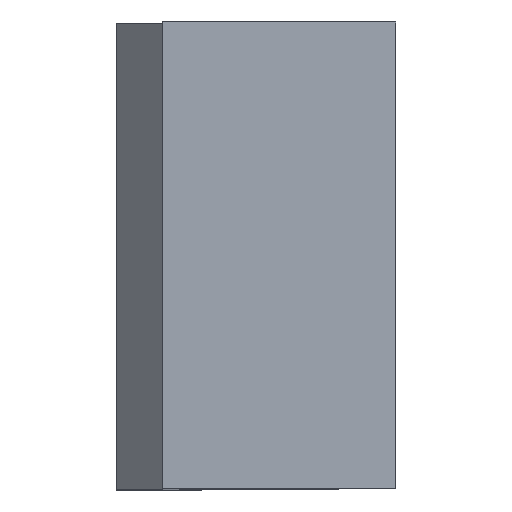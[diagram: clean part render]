
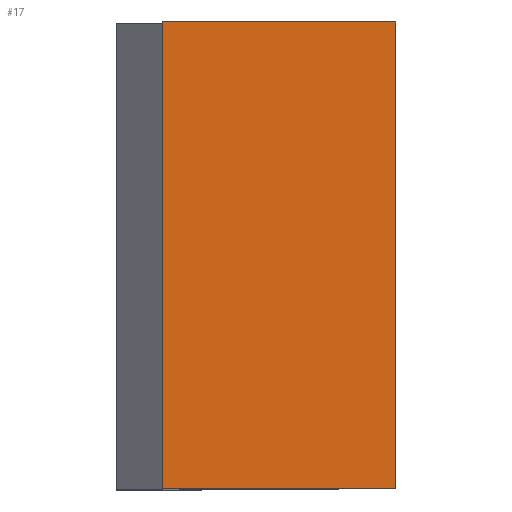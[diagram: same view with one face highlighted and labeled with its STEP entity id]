
A CAD part, top view. The second image highlights one B-rep face of the part: STEP entity #17.
In plain terms, the highlighted planar face has unit normal (0, 0, 1).
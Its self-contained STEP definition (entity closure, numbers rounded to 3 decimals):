
#17 = ADVANCED_FACE('',(#18),#32,.F.);
#18 = FACE_BOUND('',#19,.F.);
#19 = EDGE_LOOP('',(#20,#55,#83,#111));
#20 = ORIENTED_EDGE('',*,*,#21,.T.);
#21 = EDGE_CURVE('',#22,#24,#26,.T.);
#22 = VERTEX_POINT('',#23);
#23 = CARTESIAN_POINT('',(-3.,-30.,-58.));
#24 = VERTEX_POINT('',#25);
#25 = CARTESIAN_POINT('',(-3.,30.,-58.));
#26 = SURFACE_CURVE('',#27,(#31,#43),.PCURVE_S1.);
#27 = LINE('',#28,#29);
#28 = CARTESIAN_POINT('',(-3.,-30.,-58.));
#29 = VECTOR('',#30,1.);
#30 = DIRECTION('',(-0.,1.,-0.));
#31 = PCURVE('',#32,#37);
#32 = PLANE('',#33);
#33 = AXIS2_PLACEMENT_3D('',#34,#35,#36);
#34 = CARTESIAN_POINT('',(-3.,-30.,-58.));
#35 = DIRECTION('',(0.,0.,-1.));
#36 = DIRECTION('',(1.,0.,0.));
#37 = DEFINITIONAL_REPRESENTATION('',(#38),#42);
#38 = LINE('',#39,#40);
#39 = CARTESIAN_POINT('',(0.,0.));
#40 = VECTOR('',#41,1.);
#41 = DIRECTION('',(0.,-1.));
#42 = ( GEOMETRIC_REPRESENTATION_CONTEXT(2) 
PARAMETRIC_REPRESENTATION_CONTEXT() REPRESENTATION_CONTEXT('2D SPACE',''
  ) );
#43 = PCURVE('',#44,#49);
#44 = PLANE('',#45);
#45 = AXIS2_PLACEMENT_3D('',#46,#47,#48);
#46 = CARTESIAN_POINT('',(-3.,-30.,-146.5));
#47 = DIRECTION('',(1.,0.,-0.));
#48 = DIRECTION('',(0.,0.,1.));
#49 = DEFINITIONAL_REPRESENTATION('',(#50),#54);
#50 = LINE('',#51,#52);
#51 = CARTESIAN_POINT('',(88.5,0.));
#52 = VECTOR('',#53,1.);
#53 = DIRECTION('',(0.,-1.));
#54 = ( GEOMETRIC_REPRESENTATION_CONTEXT(2) 
PARAMETRIC_REPRESENTATION_CONTEXT() REPRESENTATION_CONTEXT('2D SPACE',''
  ) );
#55 = ORIENTED_EDGE('',*,*,#56,.F.);
#56 = EDGE_CURVE('',#57,#24,#59,.T.);
#57 = VERTEX_POINT('',#58);
#58 = CARTESIAN_POINT('',(27.,30.,-58.));
#59 = SURFACE_CURVE('',#60,(#64,#71),.PCURVE_S1.);
#60 = LINE('',#61,#62);
#61 = CARTESIAN_POINT('',(27.,30.,-58.));
#62 = VECTOR('',#63,1.);
#63 = DIRECTION('',(-1.,0.,0.));
#64 = PCURVE('',#32,#65);
#65 = DEFINITIONAL_REPRESENTATION('',(#66),#70);
#66 = LINE('',#67,#68);
#67 = CARTESIAN_POINT('',(30.,-60.));
#68 = VECTOR('',#69,1.);
#69 = DIRECTION('',(-1.,0.));
#70 = ( GEOMETRIC_REPRESENTATION_CONTEXT(2) 
PARAMETRIC_REPRESENTATION_CONTEXT() REPRESENTATION_CONTEXT('2D SPACE',''
  ) );
#71 = PCURVE('',#72,#77);
#72 = PLANE('',#73);
#73 = AXIS2_PLACEMENT_3D('',#74,#75,#76);
#74 = CARTESIAN_POINT('',(-1.9,30.,-102.25));
#75 = DIRECTION('',(0.,1.,0.));
#76 = DIRECTION('',(0.,-0.,1.));
#77 = DEFINITIONAL_REPRESENTATION('',(#78),#82);
#78 = LINE('',#79,#80);
#79 = CARTESIAN_POINT('',(44.25,28.9));
#80 = VECTOR('',#81,1.);
#81 = DIRECTION('',(0.,-1.));
#82 = ( GEOMETRIC_REPRESENTATION_CONTEXT(2) 
PARAMETRIC_REPRESENTATION_CONTEXT() REPRESENTATION_CONTEXT('2D SPACE',''
  ) );
#83 = ORIENTED_EDGE('',*,*,#84,.F.);
#84 = EDGE_CURVE('',#85,#57,#87,.T.);
#85 = VERTEX_POINT('',#86);
#86 = CARTESIAN_POINT('',(27.,-30.,-58.));
#87 = SURFACE_CURVE('',#88,(#92,#99),.PCURVE_S1.);
#88 = LINE('',#89,#90);
#89 = CARTESIAN_POINT('',(27.,-30.,-58.));
#90 = VECTOR('',#91,1.);
#91 = DIRECTION('',(-0.,1.,-0.));
#92 = PCURVE('',#32,#93);
#93 = DEFINITIONAL_REPRESENTATION('',(#94),#98);
#94 = LINE('',#95,#96);
#95 = CARTESIAN_POINT('',(30.,0.));
#96 = VECTOR('',#97,1.);
#97 = DIRECTION('',(0.,-1.));
#98 = ( GEOMETRIC_REPRESENTATION_CONTEXT(2) 
PARAMETRIC_REPRESENTATION_CONTEXT() REPRESENTATION_CONTEXT('2D SPACE',''
  ) );
#99 = PCURVE('',#100,#105);
#100 = PLANE('',#101);
#101 = AXIS2_PLACEMENT_3D('',#102,#103,#104);
#102 = CARTESIAN_POINT('',(27.,-30.,-61.));
#103 = DIRECTION('',(1.,0.,0.));
#104 = DIRECTION('',(0.,0.,1.));
#105 = DEFINITIONAL_REPRESENTATION('',(#106),#110);
#106 = LINE('',#107,#108);
#107 = CARTESIAN_POINT('',(3.,0.));
#108 = VECTOR('',#109,1.);
#109 = DIRECTION('',(0.,-1.));
#110 = ( GEOMETRIC_REPRESENTATION_CONTEXT(2) 
PARAMETRIC_REPRESENTATION_CONTEXT() REPRESENTATION_CONTEXT('2D SPACE',''
  ) );
#111 = ORIENTED_EDGE('',*,*,#112,.F.);
#112 = EDGE_CURVE('',#22,#85,#113,.T.);
#113 = SURFACE_CURVE('',#114,(#118,#125),.PCURVE_S1.);
#114 = LINE('',#115,#116);
#115 = CARTESIAN_POINT('',(-3.,-30.,-58.));
#116 = VECTOR('',#117,1.);
#117 = DIRECTION('',(1.,0.,0.));
#118 = PCURVE('',#32,#119);
#119 = DEFINITIONAL_REPRESENTATION('',(#120),#124);
#120 = LINE('',#121,#122);
#121 = CARTESIAN_POINT('',(0.,0.));
#122 = VECTOR('',#123,1.);
#123 = DIRECTION('',(1.,0.));
#124 = ( GEOMETRIC_REPRESENTATION_CONTEXT(2) 
PARAMETRIC_REPRESENTATION_CONTEXT() REPRESENTATION_CONTEXT('2D SPACE',''
  ) );
#125 = PCURVE('',#126,#131);
#126 = PLANE('',#127);
#127 = AXIS2_PLACEMENT_3D('',#128,#129,#130);
#128 = CARTESIAN_POINT('',(-1.9,-30.,-102.25));
#129 = DIRECTION('',(0.,1.,0.));
#130 = DIRECTION('',(0.,-0.,1.));
#131 = DEFINITIONAL_REPRESENTATION('',(#132),#136);
#132 = LINE('',#133,#134);
#133 = CARTESIAN_POINT('',(44.25,-1.1));
#134 = VECTOR('',#135,1.);
#135 = DIRECTION('',(0.,1.));
#136 = ( GEOMETRIC_REPRESENTATION_CONTEXT(2) 
PARAMETRIC_REPRESENTATION_CONTEXT() REPRESENTATION_CONTEXT('2D SPACE',''
  ) );
